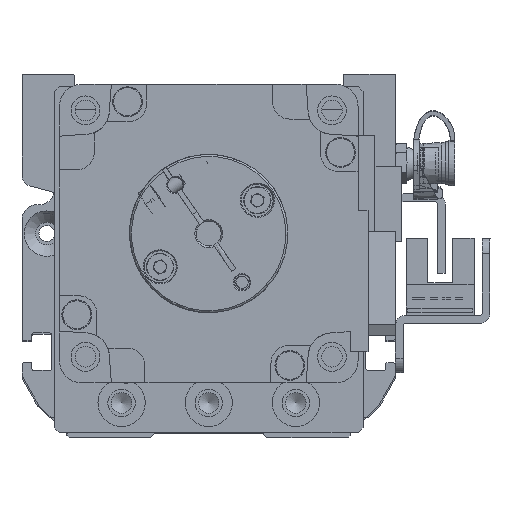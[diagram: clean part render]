
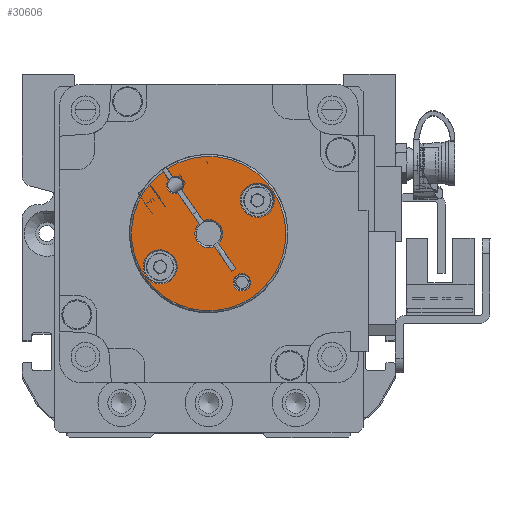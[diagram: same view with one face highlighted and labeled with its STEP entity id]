
A CAD part, left-side view. The second image highlights one B-rep face of the part: STEP entity #30606.
In plain terms, the highlighted planar face has unit normal (-1, 0, 0) as drawn and (0, 1, 0) by its records, which use the part's own axes.
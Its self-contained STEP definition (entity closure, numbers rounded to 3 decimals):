
#1000=FACE_BOUND('',#5631,.T.);
#1001=FACE_BOUND('',#5632,.T.);
#1002=FACE_BOUND('',#5633,.T.);
#1637=PLANE('',#34023);
#3652=FACE_OUTER_BOUND('',#5630,.T.);
#5630=EDGE_LOOP('',(#25615,#25616,#25617,#25618,#25619,#25620,#25621,#25622,
#25623,#25624,#25625,#25626));
#5631=EDGE_LOOP('',(#25627));
#5632=EDGE_LOOP('',(#25628));
#5633=EDGE_LOOP('',(#25629));
#7929=LINE('',#51241,#10369);
#7930=LINE('',#51243,#10370);
#7931=LINE('',#51245,#10371);
#7932=LINE('',#51247,#10372);
#7933=LINE('',#51250,#10373);
#7934=LINE('',#51251,#10374);
#7935=LINE('',#51252,#10375);
#10369=VECTOR('',#41105,1000.);
#10370=VECTOR('',#41106,1000.);
#10371=VECTOR('',#41107,1000.);
#10372=VECTOR('',#41108,1000.);
#10373=VECTOR('',#41111,1000.);
#10374=VECTOR('',#41112,1000.);
#10375=VECTOR('',#41113,1000.);
#12117=CIRCLE('',#33156,2.8);
#12242=CIRCLE('',#33326,15.5);
#12243=CIRCLE('',#33329,3.425);
#12255=CIRCLE('',#33348,1.75);
#12270=CIRCLE('',#33368,1.75);
#12271=CIRCLE('',#33370,3.425);
#12621=CIRCLE('',#34021,1.75);
#12622=CIRCLE('',#34024,2.8);
#14357=VERTEX_POINT('',#49057);
#14358=VERTEX_POINT('',#49062);
#14483=VERTEX_POINT('',#49461);
#14484=VERTEX_POINT('',#49463);
#14485=VERTEX_POINT('',#49467);
#14502=VERTEX_POINT('',#49552);
#14503=VERTEX_POINT('',#49557);
#14519=VERTEX_POINT('',#49640);
#14520=VERTEX_POINT('',#49644);
#14963=VERTEX_POINT('',#51226);
#14964=VERTEX_POINT('',#51231);
#14965=VERTEX_POINT('',#51242);
#14966=VERTEX_POINT('',#51244);
#14967=VERTEX_POINT('',#51246);
#14968=VERTEX_POINT('',#51248);
#17817=EDGE_CURVE('',#14358,#14357,#12117,.T.);
#17988=EDGE_CURVE('',#14484,#14483,#12242,.T.);
#17991=EDGE_CURVE('',#14485,#14485,#12243,.T.);
#18014=EDGE_CURVE('',#14503,#14502,#12255,.T.);
#18036=EDGE_CURVE('',#14519,#14519,#12270,.T.);
#18038=EDGE_CURVE('',#14520,#14520,#12271,.T.);
#18744=EDGE_CURVE('',#14964,#14963,#12621,.T.);
#18748=EDGE_CURVE('',#14358,#14502,#7929,.T.);
#18749=EDGE_CURVE('',#14965,#14357,#7930,.T.);
#18750=EDGE_CURVE('',#14966,#14965,#7931,.T.);
#18751=EDGE_CURVE('',#14966,#14967,#7932,.T.);
#18752=EDGE_CURVE('',#14967,#14968,#12622,.T.);
#18753=EDGE_CURVE('',#14968,#14964,#7933,.T.);
#18754=EDGE_CURVE('',#14963,#14484,#7934,.T.);
#18755=EDGE_CURVE('',#14503,#14483,#7935,.T.);
#25615=ORIENTED_EDGE('',*,*,#18748,.F.);
#25616=ORIENTED_EDGE('',*,*,#17817,.T.);
#25617=ORIENTED_EDGE('',*,*,#18749,.F.);
#25618=ORIENTED_EDGE('',*,*,#18750,.F.);
#25619=ORIENTED_EDGE('',*,*,#18751,.T.);
#25620=ORIENTED_EDGE('',*,*,#18752,.T.);
#25621=ORIENTED_EDGE('',*,*,#18753,.T.);
#25622=ORIENTED_EDGE('',*,*,#18744,.T.);
#25623=ORIENTED_EDGE('',*,*,#18754,.T.);
#25624=ORIENTED_EDGE('',*,*,#17988,.T.);
#25625=ORIENTED_EDGE('',*,*,#18755,.F.);
#25626=ORIENTED_EDGE('',*,*,#18014,.T.);
#25627=ORIENTED_EDGE('',*,*,#18036,.T.);
#25628=ORIENTED_EDGE('',*,*,#18038,.T.);
#25629=ORIENTED_EDGE('',*,*,#17991,.T.);
#30606=ADVANCED_FACE('',(#3652,#1000,#1001,#1002),#1637,.T.);
#33156=AXIS2_PLACEMENT_3D('',#49063,#38975,#38976);
#33326=AXIS2_PLACEMENT_3D('',#49464,#39354,#39355);
#33329=AXIS2_PLACEMENT_3D('',#49469,#39361,#39362);
#33348=AXIS2_PLACEMENT_3D('',#49558,#39407,#39408);
#33368=AXIS2_PLACEMENT_3D('',#49642,#39451,#39452);
#33370=AXIS2_PLACEMENT_3D('',#49646,#39456,#39457);
#34021=AXIS2_PLACEMENT_3D('',#51232,#41097,#41098);
#34023=AXIS2_PLACEMENT_3D('',#51240,#41103,#41104);
#34024=AXIS2_PLACEMENT_3D('',#51249,#41109,#41110);
#38975=DIRECTION('center_axis',(0.,-1.,0.));
#38976=DIRECTION('ref_axis',(-1.,0.,0.));
#39354=DIRECTION('center_axis',(0.,1.,0.));
#39355=DIRECTION('ref_axis',(-0.707,0.,0.707));
#39361=DIRECTION('center_axis',(0.,-1.,0.));
#39362=DIRECTION('ref_axis',(-0.707,0.,0.707));
#39407=DIRECTION('center_axis',(0.,-1.,0.));
#39408=DIRECTION('ref_axis',(-0.707,0.,0.707));
#39451=DIRECTION('center_axis',(0.,-1.,0.));
#39452=DIRECTION('ref_axis',(-0.707,0.,0.707));
#39456=DIRECTION('center_axis',(0.,-1.,0.));
#39457=DIRECTION('ref_axis',(-0.707,0.,0.707));
#41097=DIRECTION('center_axis',(0.,-1.,0.));
#41098=DIRECTION('ref_axis',(-0.707,0.,0.707));
#41103=DIRECTION('center_axis',(0.,1.,0.));
#41104=DIRECTION('ref_axis',(-0.707,0.,0.707));
#41105=DIRECTION('',(0.707,0.,0.707));
#41106=DIRECTION('',(0.707,0.,0.707));
#41107=DIRECTION('',(-0.707,0.,0.707));
#41108=DIRECTION('',(0.707,0.,0.707));
#41109=DIRECTION('center_axis',(0.,-1.,0.));
#41110=DIRECTION('ref_axis',(-1.,0.,0.));
#41111=DIRECTION('',(0.707,0.,0.707));
#41112=DIRECTION('',(0.707,0.,0.707));
#41113=DIRECTION('',(0.707,0.,0.707));
#49057=CARTESIAN_POINT('',(-2.302,18.7,-1.595));
#49062=CARTESIAN_POINT('',(1.595,18.7,2.302));
#49063=CARTESIAN_POINT('Origin',(0.,18.7,0.));
#49461=CARTESIAN_POINT('',(10.601,18.7,11.308));
#49463=CARTESIAN_POINT('',(11.308,18.7,10.601));
#49464=CARTESIAN_POINT('Origin',(0.,18.7,0.));
#49467=CARTESIAN_POINT('',(-5.957,18.7,5.957));
#49469=CARTESIAN_POINT('Origin',(-8.379,18.7,8.379));
#49552=CARTESIAN_POINT('',(6.84,18.7,7.547));
#49557=CARTESIAN_POINT('',(9.212,18.7,9.919));
#49558=CARTESIAN_POINT('Origin',(8.379,18.7,8.379));
#49640=CARTESIAN_POINT('',(-7.142,18.7,-9.617));
#49642=CARTESIAN_POINT('Origin',(-8.379,18.7,-8.379));
#49644=CARTESIAN_POINT('',(10.801,18.7,-10.801));
#49646=CARTESIAN_POINT('Origin',(8.379,18.7,-8.379));
#51226=CARTESIAN_POINT('',(9.919,18.7,9.212));
#51231=CARTESIAN_POINT('',(7.547,18.7,6.84));
#51232=CARTESIAN_POINT('Origin',(8.379,18.7,8.379));
#51240=CARTESIAN_POINT('Origin',(0.,18.7,0.));
#51241=CARTESIAN_POINT('',(-0.354,18.7,0.354));
#51242=CARTESIAN_POINT('',(-6.647,18.7,-5.94));
#51243=CARTESIAN_POINT('',(-0.354,18.7,0.354));
#51244=CARTESIAN_POINT('',(-5.94,18.7,-6.647));
#51245=CARTESIAN_POINT('',(-5.94,18.7,-6.647));
#51246=CARTESIAN_POINT('',(-1.595,18.7,-2.302));
#51247=CARTESIAN_POINT('',(0.354,18.7,-0.354));
#51248=CARTESIAN_POINT('',(2.302,18.7,1.595));
#51249=CARTESIAN_POINT('Origin',(0.,18.7,0.));
#51250=CARTESIAN_POINT('',(0.354,18.7,-0.354));
#51251=CARTESIAN_POINT('',(0.354,18.7,-0.354));
#51252=CARTESIAN_POINT('',(-0.354,18.7,0.354));
